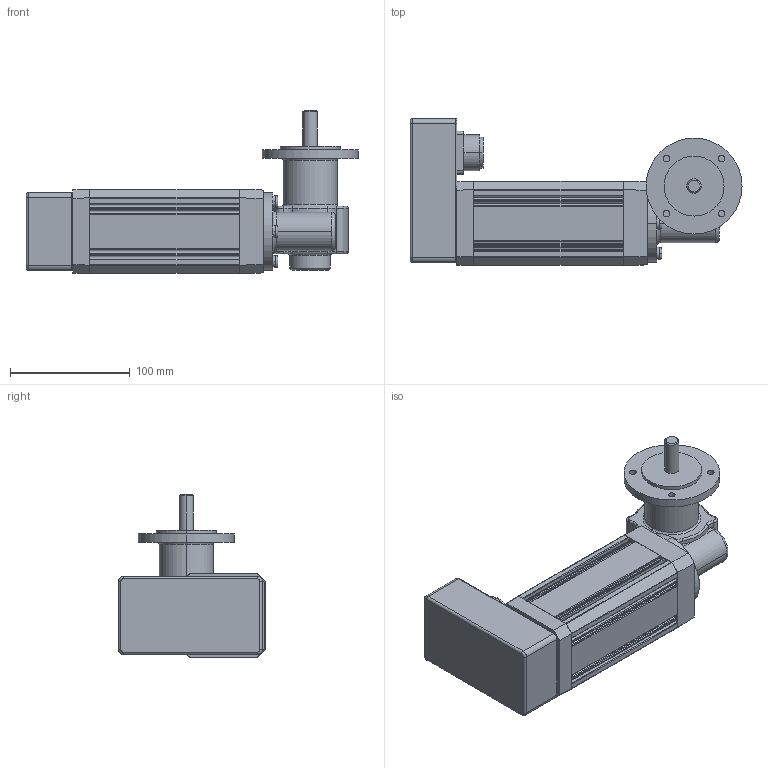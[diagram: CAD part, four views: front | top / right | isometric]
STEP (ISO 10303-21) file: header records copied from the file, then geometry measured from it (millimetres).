
FILE_DESCRIPTION(('OneSpaceDesigner STEP Export'),'2;1');
FILE_NAME('UECG313TH_GF127_F.stp','2008-06-24T10:16:54',(''),(''),'OneSpace Designer STEP processor (Jan. 2003) for AP214(CD)(Solid Model)','OneSpace Designer 12.01D 09-Jul-2004 (C) CoCreate Software GmbH','');
FILE_SCHEMA(('AUTOMOTIVE_DESIGN_CC2 {1 2 10303 214 -1 1 5 1}'));
Length unit declared in the file: millimetre
Products named in the file (2): UECG313TH_GF127_F
Assembly tree (1 placements, depth 2):
  UECG313TH_GF127_F
    UECG313TH_GF127_F
Bounding box: 277 x 122.6 x 136.1 mm (x, y, z)
Volume: 1363087.8 mm3; surface area: 124811.8 mm2
Topology: 1 solids, 1 shells, 344 faces, 895 edges, 568 vertices
Faces by surface type: cylinder 153, plane 113, torus 74, cone 4
Entity records: 10672 total; most frequent: CARTESIAN_POINT 2580, ORIENTED_EDGE 1790, DIRECTION 1632, EDGE_CURVE 895, AXIS2_PLACEMENT_3D 609, VERTEX_POINT 568, VECTOR 414, LINE 414
